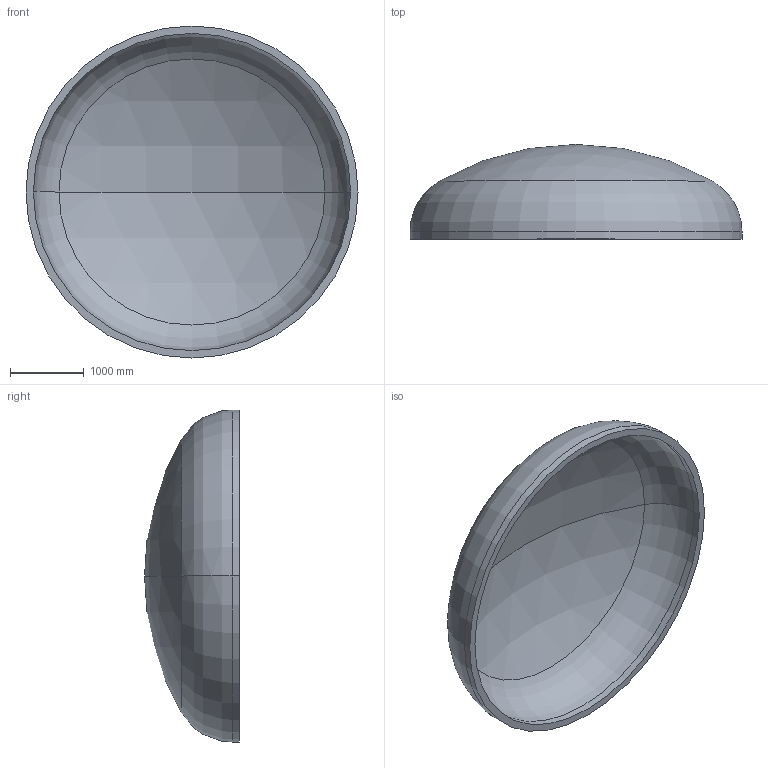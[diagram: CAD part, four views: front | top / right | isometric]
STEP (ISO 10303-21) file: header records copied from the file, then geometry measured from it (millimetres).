
FILE_DESCRIPTION (( 'STEP AP203' ), '1' );
FILE_NAME ('DIN 28013 Korbbogenform_-_Boden DIN 28013 - 4500 x 100 - I - s=100.step', '2016-07-01T23:51:18', ( '' ), ( '' ), 'SwSTEP 2.0', 'SolidWorks 2013', '' );
FILE_SCHEMA (( 'CONFIG_CONTROL_DESIGN' ));
Length unit declared in the file: millimetre
Products named in the file (1): DIN 28013 Korbbogenform_-_Boden DIN 28013 - 4500 x 100 - I - s=100
Bounding box: 4500 x 1285.64 x 4500 mm (x, y, z)
Volume: 2278775248.4 mm3; surface area: 46978733.6 mm2
Topology: 1 solids, 1 shells, 13 faces, 24 edges, 14 vertices
Faces by surface type: torus 4, cylinder 4, sphere 4, plane 1
Entity records: 407 total; most frequent: DIRECTION 72, CARTESIAN_POINT 52, ORIENTED_EDGE 48, AXIS2_PLACEMENT_3D 34, EDGE_CURVE 24, CIRCLE 20, VERTEX_POINT 14, EDGE_LOOP 14
